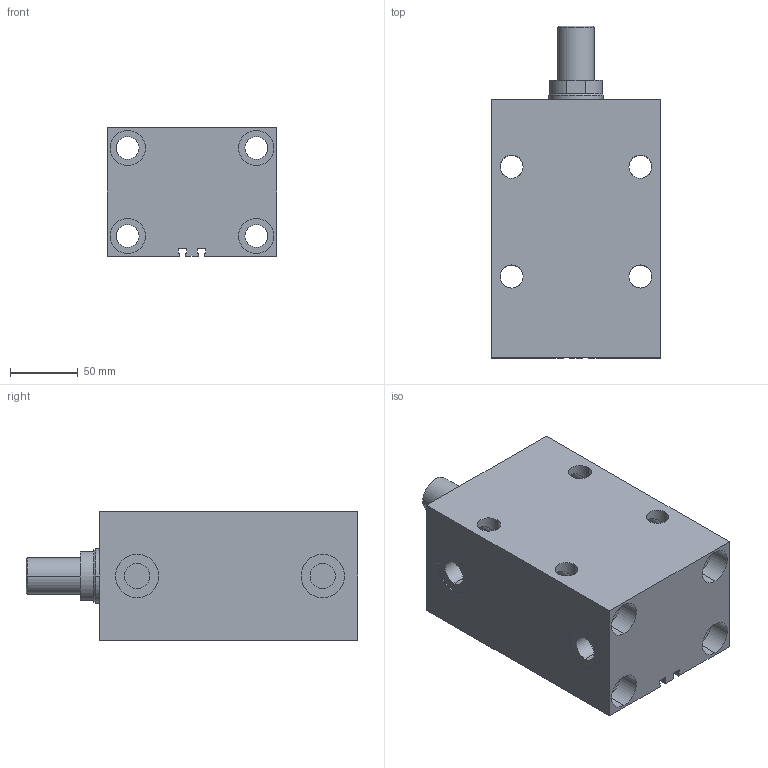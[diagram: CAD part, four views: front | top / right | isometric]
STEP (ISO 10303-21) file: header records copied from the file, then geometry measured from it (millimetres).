
FILE_DESCRIPTION (( 'STEP AP203' ), '1' );
FILE_NAME ('GERMA_Blockzylinder_700-063-100-A.STEP', '2016-07-26T09:28:09', ( '' ), ( '' ), 'SwSTEP 2.0', 'SolidWorks 2015', '' );
FILE_SCHEMA (( 'CONFIG_CONTROL_DESIGN' ));
Length unit declared in the file: millimetre
Products named in the file (3): GERMA_Blockzylinder_700-063-100-A; GH-700-063_GH-700-063-100; Kolben_MT 70x-063_Kolben_MT DU.63-Hub100-AG
Assembly tree (2 placements, depth 2):
  GERMA_Blockzylinder_700-063-100-A
    GH-700-063_GH-700-063-100
    Kolben_MT 70x-063_Kolben_MT DU.63-Hub100-AG
Bounding box: 125 x 245 x 95 mm (x, y, z)
Volume: 1823885.3 mm3; surface area: 238336.8 mm2
Topology: 2 solids, 2 shells, 152 faces, 372 edges, 225 vertices
Faces by surface type: cylinder 93, plane 47, cone 12
Entity records: 4766 total; most frequent: CARTESIAN_POINT 942, DIRECTION 751, ORIENTED_EDGE 736, EDGE_CURVE 368, AXIS2_PLACEMENT_3D 290, VERTEX_POINT 225, EDGE_LOOP 189, LINE 171
